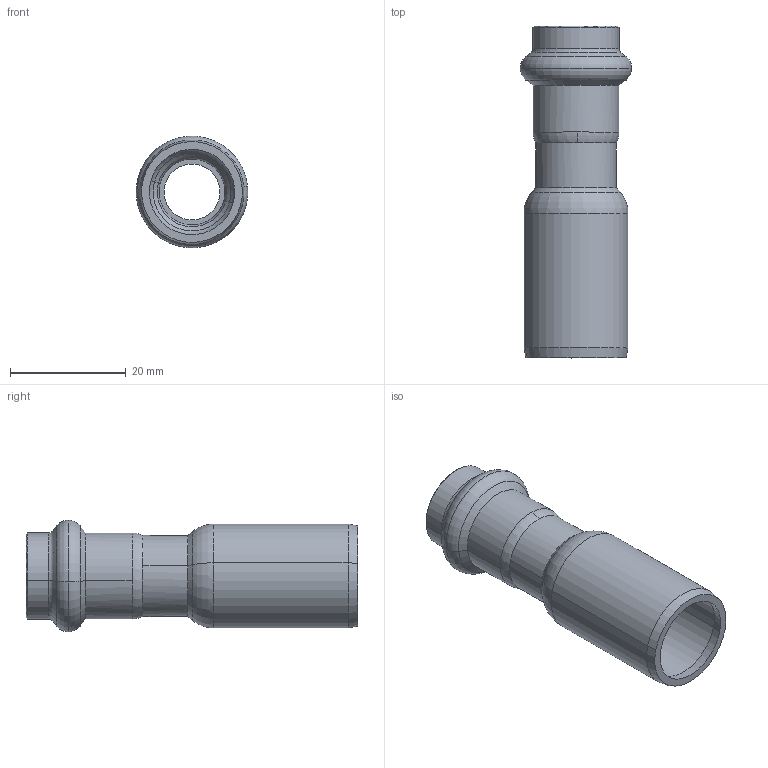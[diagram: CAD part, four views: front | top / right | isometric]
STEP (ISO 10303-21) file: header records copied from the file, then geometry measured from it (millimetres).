
FILE_DESCRIPTION(('CoCreate Modeling STEP Export'),'2;1');
FILE_NAME('8243VW1812.stp','2013-03-05T 9:20:02',(''),(''),'CoCreate Modeling STEP processor for AP214 (Solid Model)','CoCreate Modeling 17.00A 17-Jun-2010 (C) Parametric Technology GmbH','');
FILE_SCHEMA(('AUTOMOTIVE_DESIGN { 1 0 10303 214 1 1 1 1 }'));
Length unit declared in the file: millimetre
Products named in the file (1): 8243VW1812
Bounding box: 19.26 x 57.29 x 19.26 mm (x, y, z)
Volume: 4040.4 mm3; surface area: 5774.3 mm2
Topology: 1 solids, 1 shells, 58 faces, 126 edges, 72 vertices
Faces by surface type: cone 18, cylinder 18, torus 18, plane 4
Entity records: 1273 total; most frequent: ORIENTED_EDGE 252, DIRECTION 196, CARTESIAN_POINT 188, EDGE_CURVE 126, AXIS2_PLACEMENT_3D 80, VERTEX_POINT 72, EDGE_LOOP 62, FACE_OUTER_BOUND 58
